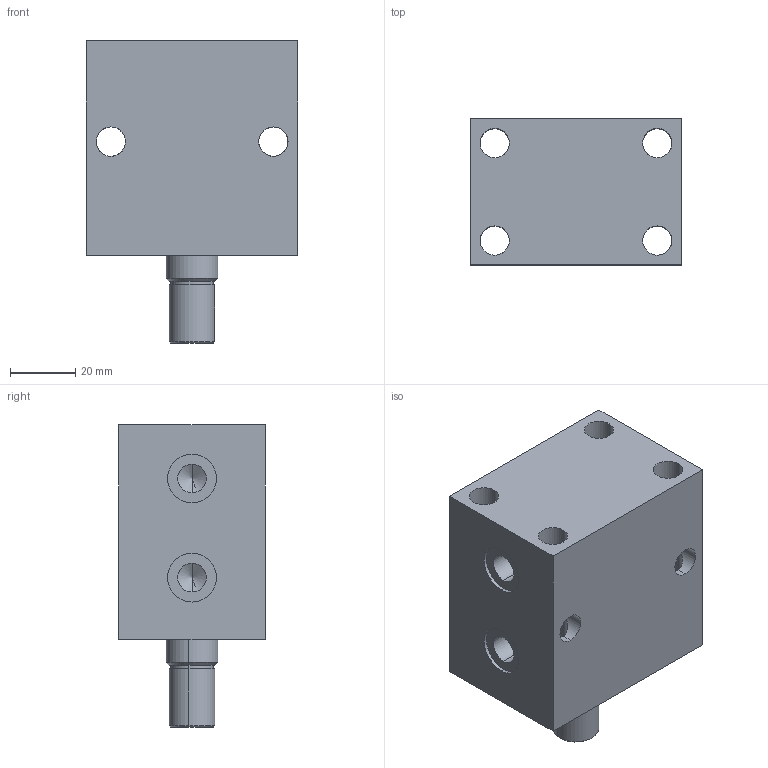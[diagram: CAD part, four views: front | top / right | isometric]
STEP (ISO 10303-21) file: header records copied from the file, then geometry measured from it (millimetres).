
FILE_DESCRIPTION (( 'STEP AP203' ), '1' );
FILE_NAME ('Block cylinder B01C_116M.STEP', '2022-07-09T17:56:11', ( '' ), ( '' ), 'SwSTEP 2.0', 'SolidWorks 2017', '' );
FILE_SCHEMA (( 'CONFIG_CONTROL_DESIGN' ));
Length unit declared in the file: millimetre
Products named in the file (3): Body_116M; Piston_116M; Block cylinder B01C_116M
Assembly tree (2 placements, depth 2):
  Block cylinder B01C_116M
    Body_116M
    Piston_116M
Bounding box: 65 x 45 x 93 mm (x, y, z)
Volume: 179235.2 mm3; surface area: 35142.1 mm2
Topology: 2 solids, 2 shells, 335 faces, 931 edges, 616 vertices
Faces by surface type: plane 149, bspline 144, cylinder 34, cone 8
Entity records: 17622 total; most frequent: CARTESIAN_POINT 9699, ORIENTED_EDGE 1854, DIRECTION 1071, EDGE_CURVE 927, VERTEX_POINT 616, VECTOR 551, LINE 551, EDGE_LOOP 375
